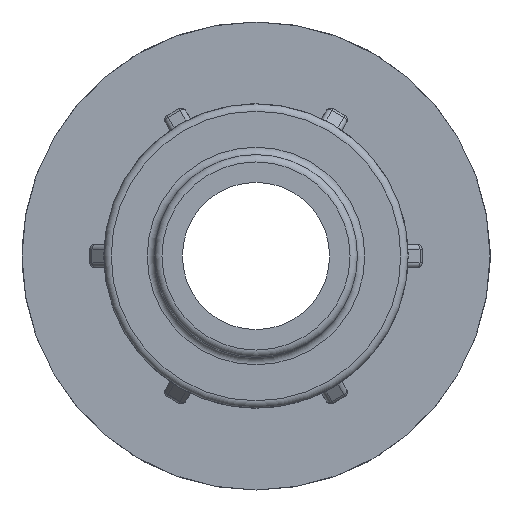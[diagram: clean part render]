
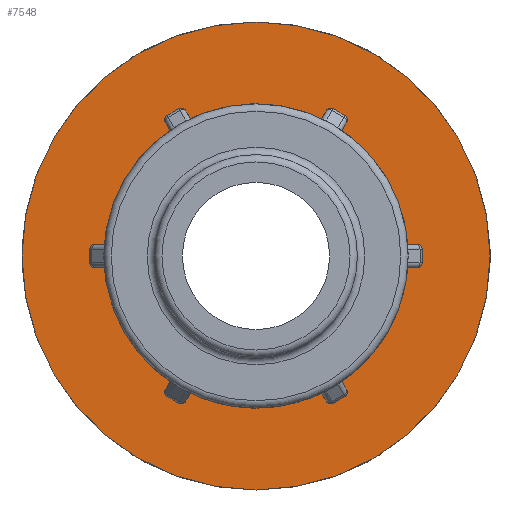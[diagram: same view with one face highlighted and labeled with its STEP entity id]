
A CAD part, left-side view. The second image highlights one B-rep face of the part: STEP entity #7548.
In plain terms, the highlighted planar face has unit normal (-1, 0, 0).
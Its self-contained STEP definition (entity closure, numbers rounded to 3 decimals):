
#26=FACE_BOUND('',#1424,.T.);
#113=ELLIPSE('',#7628,0.905,0.64);
#114=ELLIPSE('',#7649,0.905,0.64);
#117=ELLIPSE('',#7744,0.905,0.64);
#118=ELLIPSE('',#7765,0.905,0.64);
#121=ELLIPSE('',#7860,0.905,0.64);
#122=ELLIPSE('',#7881,0.905,0.64);
#125=ELLIPSE('',#7976,0.905,0.64);
#126=ELLIPSE('',#7997,0.905,0.64);
#129=ELLIPSE('',#8092,0.905,0.64);
#130=ELLIPSE('',#8113,0.905,0.64);
#134=ELLIPSE('',#8383,0.905,0.64);
#135=ELLIPSE('',#8404,0.905,0.64);
#288=PLANE('',#8471);
#943=FACE_OUTER_BOUND('',#1423,.T.);
#1423=EDGE_LOOP('',(#6832));
#1424=EDGE_LOOP('',(#6833,#6834,#6835,#6836,#6837,#6838,#6839,#6840,#6841,
#6842,#6843,#6844,#6845,#6846,#6847,#6848,#6849,#6850,#6851,#6852,#6853,
#6854,#6855,#6856));
#1476=LINE('',#11111,#1926);
#1535=LINE('',#11586,#1985);
#1594=LINE('',#12061,#2044);
#1653=LINE('',#12536,#2103);
#1712=LINE('',#13011,#2162);
#1859=LINE('',#14361,#2309);
#1926=VECTOR('',#8664,1.77);
#1985=VECTOR('',#8955,1.77);
#2044=VECTOR('',#9246,1.77);
#2103=VECTOR('',#9537,1.77);
#2162=VECTOR('',#9828,1.77);
#2309=VECTOR('',#10557,1.77);
#2755=CIRCLE('',#8309,19.648);
#2756=CIRCLE('',#8311,19.648);
#2757=CIRCLE('',#8313,19.648);
#2758=CIRCLE('',#8315,19.648);
#2759=CIRCLE('',#8317,19.648);
#2842=CIRCLE('',#8472,30.5);
#2843=CIRCLE('',#8473,19.648);
#2907=VERTEX_POINT('',#11091);
#2908=VERTEX_POINT('',#11103);
#2910=VERTEX_POINT('',#11109);
#2923=VERTEX_POINT('',#11166);
#2996=VERTEX_POINT('',#11566);
#2997=VERTEX_POINT('',#11578);
#2999=VERTEX_POINT('',#11584);
#3012=VERTEX_POINT('',#11641);
#3085=VERTEX_POINT('',#12041);
#3086=VERTEX_POINT('',#12053);
#3088=VERTEX_POINT('',#12059);
#3101=VERTEX_POINT('',#12116);
#3174=VERTEX_POINT('',#12516);
#3175=VERTEX_POINT('',#12528);
#3177=VERTEX_POINT('',#12534);
#3190=VERTEX_POINT('',#12591);
#3263=VERTEX_POINT('',#12991);
#3264=VERTEX_POINT('',#13003);
#3266=VERTEX_POINT('',#13009);
#3279=VERTEX_POINT('',#13066);
#3435=VERTEX_POINT('',#14105);
#3482=VERTEX_POINT('',#14341);
#3483=VERTEX_POINT('',#14353);
#3485=VERTEX_POINT('',#14359);
#3521=VERTEX_POINT('',#14555);
#3611=EDGE_CURVE('',#2908,#2907,#113,.F.);
#3614=EDGE_CURVE('',#2908,#2910,#1476,.T.);
#3639=EDGE_CURVE('',#2910,#2923,#114,.T.);
#3753=EDGE_CURVE('',#2997,#2996,#117,.F.);
#3756=EDGE_CURVE('',#2997,#2999,#1535,.T.);
#3781=EDGE_CURVE('',#2999,#3012,#118,.T.);
#3895=EDGE_CURVE('',#3086,#3085,#121,.F.);
#3898=EDGE_CURVE('',#3086,#3088,#1594,.T.);
#3923=EDGE_CURVE('',#3088,#3101,#122,.T.);
#4037=EDGE_CURVE('',#3175,#3174,#125,.F.);
#4040=EDGE_CURVE('',#3175,#3177,#1653,.T.);
#4065=EDGE_CURVE('',#3177,#3190,#126,.T.);
#4179=EDGE_CURVE('',#3264,#3263,#129,.F.);
#4182=EDGE_CURVE('',#3264,#3266,#1712,.T.);
#4207=EDGE_CURVE('',#3266,#3279,#130,.T.);
#4483=EDGE_CURVE('',#3263,#3435,#2755,.F.);
#4486=EDGE_CURVE('',#3279,#3174,#2756,.T.);
#4487=EDGE_CURVE('',#3190,#3085,#2757,.T.);
#4488=EDGE_CURVE('',#3101,#2996,#2758,.T.);
#4489=EDGE_CURVE('',#3012,#2907,#2759,.T.);
#4567=EDGE_CURVE('',#3483,#3482,#134,.F.);
#4570=EDGE_CURVE('',#3483,#3485,#1859,.T.);
#4594=EDGE_CURVE('',#3485,#3435,#135,.T.);
#4644=EDGE_CURVE('',#3521,#3521,#2842,.T.);
#4645=EDGE_CURVE('',#2923,#3482,#2843,.T.);
#6832=ORIENTED_EDGE('',*,*,#4644,.F.);
#6833=ORIENTED_EDGE('',*,*,#4645,.T.);
#6834=ORIENTED_EDGE('',*,*,#4567,.F.);
#6835=ORIENTED_EDGE('',*,*,#4570,.T.);
#6836=ORIENTED_EDGE('',*,*,#4594,.T.);
#6837=ORIENTED_EDGE('',*,*,#4483,.F.);
#6838=ORIENTED_EDGE('',*,*,#4179,.F.);
#6839=ORIENTED_EDGE('',*,*,#4182,.T.);
#6840=ORIENTED_EDGE('',*,*,#4207,.T.);
#6841=ORIENTED_EDGE('',*,*,#4486,.T.);
#6842=ORIENTED_EDGE('',*,*,#4037,.F.);
#6843=ORIENTED_EDGE('',*,*,#4040,.T.);
#6844=ORIENTED_EDGE('',*,*,#4065,.T.);
#6845=ORIENTED_EDGE('',*,*,#4487,.T.);
#6846=ORIENTED_EDGE('',*,*,#3895,.F.);
#6847=ORIENTED_EDGE('',*,*,#3898,.T.);
#6848=ORIENTED_EDGE('',*,*,#3923,.T.);
#6849=ORIENTED_EDGE('',*,*,#4488,.T.);
#6850=ORIENTED_EDGE('',*,*,#3753,.F.);
#6851=ORIENTED_EDGE('',*,*,#3756,.T.);
#6852=ORIENTED_EDGE('',*,*,#3781,.T.);
#6853=ORIENTED_EDGE('',*,*,#4489,.T.);
#6854=ORIENTED_EDGE('',*,*,#3611,.F.);
#6855=ORIENTED_EDGE('',*,*,#3614,.T.);
#6856=ORIENTED_EDGE('',*,*,#3639,.T.);
#7548=ADVANCED_FACE('',(#943,#26),#288,.T.);
#7628=AXIS2_PLACEMENT_3D('',#11105,#8658,#8659);
#7649=AXIS2_PLACEMENT_3D('',#11167,#8720,#8721);
#7744=AXIS2_PLACEMENT_3D('',#11580,#8949,#8950);
#7765=AXIS2_PLACEMENT_3D('',#11642,#9011,#9012);
#7860=AXIS2_PLACEMENT_3D('',#12055,#9240,#9241);
#7881=AXIS2_PLACEMENT_3D('',#12117,#9302,#9303);
#7976=AXIS2_PLACEMENT_3D('',#12530,#9531,#9532);
#7997=AXIS2_PLACEMENT_3D('',#12592,#9593,#9594);
#8092=AXIS2_PLACEMENT_3D('',#13005,#9822,#9823);
#8113=AXIS2_PLACEMENT_3D('',#13067,#9884,#9885);
#8309=AXIS2_PLACEMENT_3D('',#14106,#10371,#10372);
#8311=AXIS2_PLACEMENT_3D('',#14122,#10375,#10376);
#8313=AXIS2_PLACEMENT_3D('',#14124,#10379,#10380);
#8315=AXIS2_PLACEMENT_3D('',#14126,#10383,#10384);
#8317=AXIS2_PLACEMENT_3D('',#14128,#10387,#10388);
#8383=AXIS2_PLACEMENT_3D('',#14355,#10551,#10552);
#8404=AXIS2_PLACEMENT_3D('',#14409,#10613,#10614);
#8471=AXIS2_PLACEMENT_3D('',#14554,#10762,#10763);
#8472=AXIS2_PLACEMENT_3D('',#14556,#10764,#10765);
#8473=AXIS2_PLACEMENT_3D('',#14557,#10766,#10767);
#8658=DIRECTION('center_axis',(1.,0.,0.));
#8659=DIRECTION('ref_axis',(0.,0.5,-0.866));
#8664=DIRECTION('',(0.,0.866,0.5));
#8720=DIRECTION('center_axis',(1.,0.,0.));
#8721=DIRECTION('ref_axis',(0.,0.5,-0.866));
#8949=DIRECTION('center_axis',(1.,0.,0.));
#8950=DIRECTION('ref_axis',(0.,-0.5,-0.866));
#8955=DIRECTION('',(0.,0.866,-0.5));
#9011=DIRECTION('center_axis',(1.,0.,0.));
#9012=DIRECTION('ref_axis',(0.,-0.5,-0.866));
#9240=DIRECTION('center_axis',(1.,0.,0.));
#9241=DIRECTION('ref_axis',(0.,-1.,0.));
#9246=DIRECTION('',(0.,0.,-1.));
#9302=DIRECTION('center_axis',(1.,0.,0.));
#9303=DIRECTION('ref_axis',(0.,-1.,0.));
#9531=DIRECTION('center_axis',(1.,0.,0.));
#9532=DIRECTION('ref_axis',(0.,-0.5,0.866));
#9537=DIRECTION('',(0.,-0.866,-0.5));
#9593=DIRECTION('center_axis',(1.,0.,0.));
#9594=DIRECTION('ref_axis',(0.,-0.5,0.866));
#9822=DIRECTION('center_axis',(1.,0.,0.));
#9823=DIRECTION('ref_axis',(0.,0.5,0.866));
#9828=DIRECTION('',(0.,-0.866,0.5));
#9884=DIRECTION('center_axis',(1.,0.,0.));
#9885=DIRECTION('ref_axis',(0.,0.5,0.866));
#10371=DIRECTION('center_axis',(1.,0.,0.));
#10372=DIRECTION('ref_axis',(0.,1.,0.));
#10375=DIRECTION('center_axis',(1.,0.,0.));
#10376=DIRECTION('ref_axis',(0.,1.,0.));
#10379=DIRECTION('center_axis',(1.,0.,0.));
#10380=DIRECTION('ref_axis',(0.,1.,0.));
#10383=DIRECTION('center_axis',(1.,0.,0.));
#10384=DIRECTION('ref_axis',(0.,1.,0.));
#10387=DIRECTION('center_axis',(1.,0.,0.));
#10388=DIRECTION('ref_axis',(0.,1.,0.));
#10551=DIRECTION('center_axis',(1.,0.,0.));
#10552=DIRECTION('ref_axis',(0.,1.,0.));
#10557=DIRECTION('',(0.,0.,1.));
#10613=DIRECTION('center_axis',(1.,0.,0.));
#10614=DIRECTION('ref_axis',(0.,1.,0.));
#10762=DIRECTION('center_axis',(-1.,0.,0.));
#10763=DIRECTION('ref_axis',(0.,0.,1.));
#10764=DIRECTION('center_axis',(1.,0.,0.));
#10765=DIRECTION('ref_axis',(0.,0.,-1.));
#10766=DIRECTION('center_axis',(1.,0.,0.));
#10767=DIRECTION('ref_axis',(0.,1.,0.));
#11091=CARTESIAN_POINT('',(19.4,8.908,-17.512));
#11103=CARTESIAN_POINT('',(19.4,9.057,-17.458));
#11105=CARTESIAN_POINT('Origin',(19.4,8.605,-16.674));
#11109=CARTESIAN_POINT('',(19.4,10.59,-16.573));
#11111=CARTESIAN_POINT('',(19.4,21.261,-10.412));
#11166=CARTESIAN_POINT('',(19.4,10.712,-16.47));
#11167=CARTESIAN_POINT('Origin',(19.4,10.138,-15.789));
#11566=CARTESIAN_POINT('',(19.4,-10.712,-16.47));
#11578=CARTESIAN_POINT('',(19.4,-10.59,-16.573));
#11580=CARTESIAN_POINT('Origin',(19.4,-10.138,-15.789));
#11584=CARTESIAN_POINT('',(19.4,-9.057,-17.458));
#11586=CARTESIAN_POINT('',(19.4,1.614,-23.619));
#11641=CARTESIAN_POINT('',(19.4,-8.908,-17.512));
#11642=CARTESIAN_POINT('Origin',(19.4,-8.605,-16.674));
#12041=CARTESIAN_POINT('',(19.4,-19.62,1.042));
#12053=CARTESIAN_POINT('',(19.4,-19.648,0.885));
#12055=CARTESIAN_POINT('Origin',(19.4,-18.743,0.885));
#12059=CARTESIAN_POINT('',(19.4,-19.648,-0.885));
#12061=CARTESIAN_POINT('',(19.4,-19.648,0.));
#12116=CARTESIAN_POINT('',(19.4,-19.62,-1.042));
#12117=CARTESIAN_POINT('Origin',(19.4,-18.743,-0.885));
#12516=CARTESIAN_POINT('',(19.4,-8.908,17.512));
#12528=CARTESIAN_POINT('',(19.4,-9.057,17.458));
#12530=CARTESIAN_POINT('Origin',(19.4,-8.605,16.674));
#12534=CARTESIAN_POINT('',(19.4,-10.59,16.573));
#12536=CARTESIAN_POINT('',(19.4,1.614,23.619));
#12591=CARTESIAN_POINT('',(19.4,-10.712,16.47));
#12592=CARTESIAN_POINT('Origin',(19.4,-10.138,15.789));
#12991=CARTESIAN_POINT('',(19.4,10.712,16.47));
#13003=CARTESIAN_POINT('',(19.4,10.59,16.573));
#13005=CARTESIAN_POINT('Origin',(19.4,10.138,15.789));
#13009=CARTESIAN_POINT('',(19.4,9.057,17.458));
#13011=CARTESIAN_POINT('',(19.4,21.261,10.412));
#13066=CARTESIAN_POINT('',(19.4,8.908,17.512));
#13067=CARTESIAN_POINT('Origin',(19.4,8.605,16.674));
#14105=CARTESIAN_POINT('',(19.4,19.62,1.042));
#14106=CARTESIAN_POINT('Origin',(19.4,0.,0.));
#14122=CARTESIAN_POINT('Origin',(19.4,0.,0.));
#14124=CARTESIAN_POINT('Origin',(19.4,0.,0.));
#14126=CARTESIAN_POINT('Origin',(19.4,0.,0.));
#14128=CARTESIAN_POINT('Origin',(19.4,0.,0.));
#14341=CARTESIAN_POINT('',(19.4,19.62,-1.042));
#14353=CARTESIAN_POINT('',(19.4,19.648,-0.885));
#14355=CARTESIAN_POINT('Origin',(19.4,18.743,-0.885));
#14359=CARTESIAN_POINT('',(19.4,19.648,0.885));
#14361=CARTESIAN_POINT('',(19.4,19.648,0.));
#14409=CARTESIAN_POINT('Origin',(19.4,18.743,0.885));
#14554=CARTESIAN_POINT('Origin',(19.4,30.5,0.));
#14555=CARTESIAN_POINT('',(19.4,30.5,0.));
#14556=CARTESIAN_POINT('Origin',(19.4,0.,0.));
#14557=CARTESIAN_POINT('Origin',(19.4,0.,0.));
